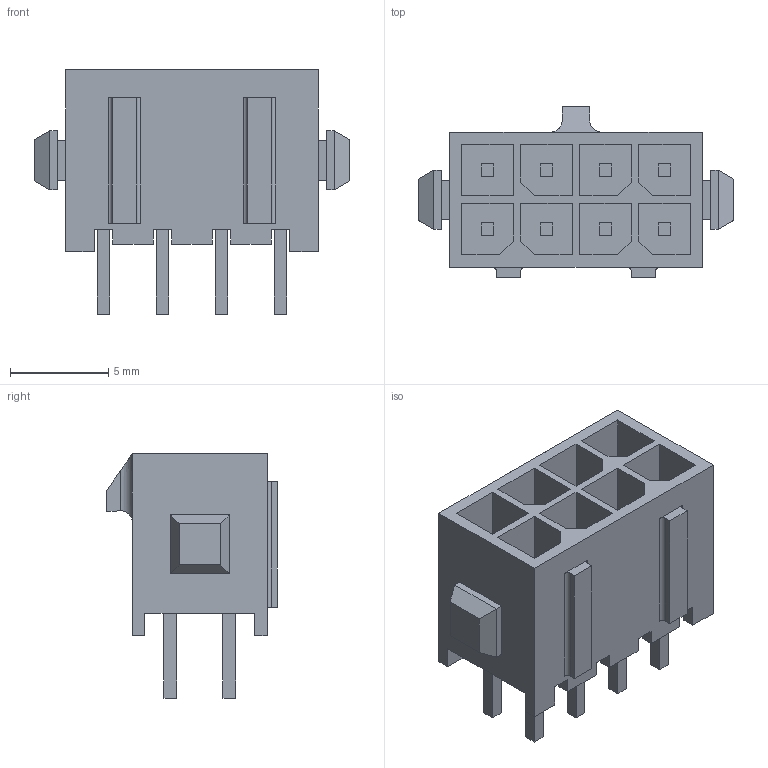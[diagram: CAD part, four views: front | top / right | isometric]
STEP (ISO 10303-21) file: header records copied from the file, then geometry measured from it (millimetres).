
FILE_DESCRIPTION((''),'2;1');
FILE_NAME('C-3-794632-8','2017-05-03T',('workeradm'),('Tyco Electronics Ltd.'),'CREO PARAMETRIC BY PTC INC, 2016050','CREO PARAMETRIC BY PTC INC, 2016050','');
FILE_SCHEMA(('AUTOMOTIVE_DESIGN { 1 0 10303 214 1 1 1 1 }'));
Length unit declared in the file: millimetre
Products named in the file (1): C-3-794632-8
Bounding box: 16 x 8.67 x 12.42 mm (x, y, z)
Volume: 448.4 mm3; surface area: 1291.7 mm2
Topology: 1 solids, 1 shells, 219 faces, 551 edges, 364 vertices
Faces by surface type: plane 212, cylinder 7
Entity records: 6492 total; most frequent: CARTESIAN_POINT 1177, ORIENTED_EDGE 1102, DIRECTION 995, EDGE_CURVE 551, VECTOR 537, LINE 537, VERTEX_POINT 364, EDGE_LOOP 249
